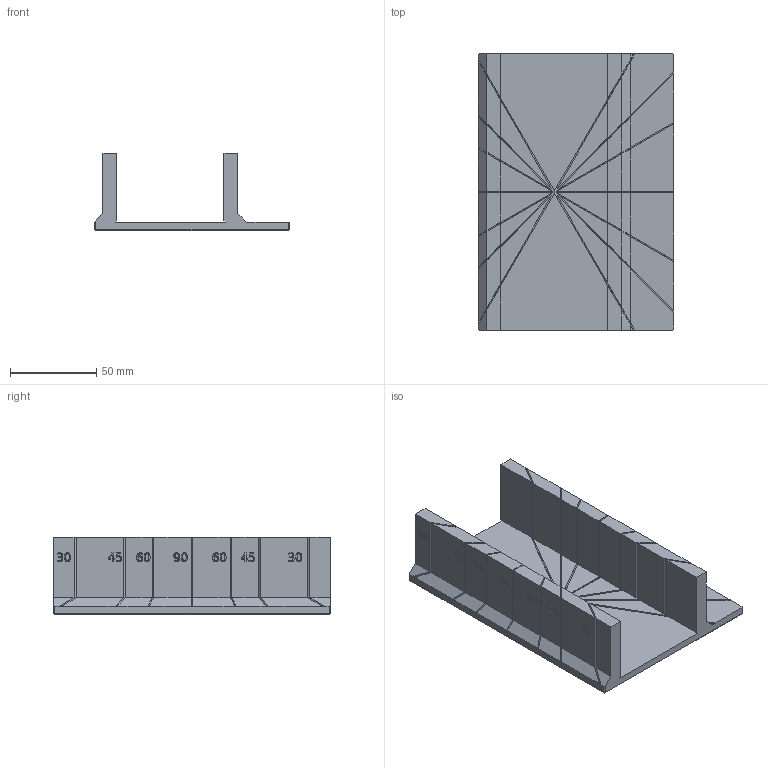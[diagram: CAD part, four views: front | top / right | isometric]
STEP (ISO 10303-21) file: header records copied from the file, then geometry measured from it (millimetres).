
FILE_DESCRIPTION(('FreeCAD Model'),'2;1');
FILE_NAME('Open CASCADE Shape Model','2026-03-28T17:09:23',('Author'),( ''),'Open CASCADE STEP processor 7.8','FreeCAD','Unknown');
FILE_SCHEMA(('AUTOMOTIVE_DESIGN { 1 0 10303 214 1 1 1 1 }'));
Length unit declared in the file: millimetre
Products named in the file (1): pocket-30-l2
Bounding box: 113 x 160 x 45 mm (x, y, z)
Volume: 191449.1 mm3; surface area: 78456.4 mm2
Topology: 1 solids, 1 shells, 788 faces, 2194 edges, 1458 vertices
Faces by surface type: extrusion 464, plane 324
Entity records: 25636 total; most frequent: CARTESIAN_POINT 7225, ORIENTED_EDGE 4388, DIRECTION 2380, EDGE_CURVE 2194, VECTOR 1730, VERTEX_POINT 1458, B_SPLINE_CURVE_WITH_KNOTS 1392, LINE 1266
